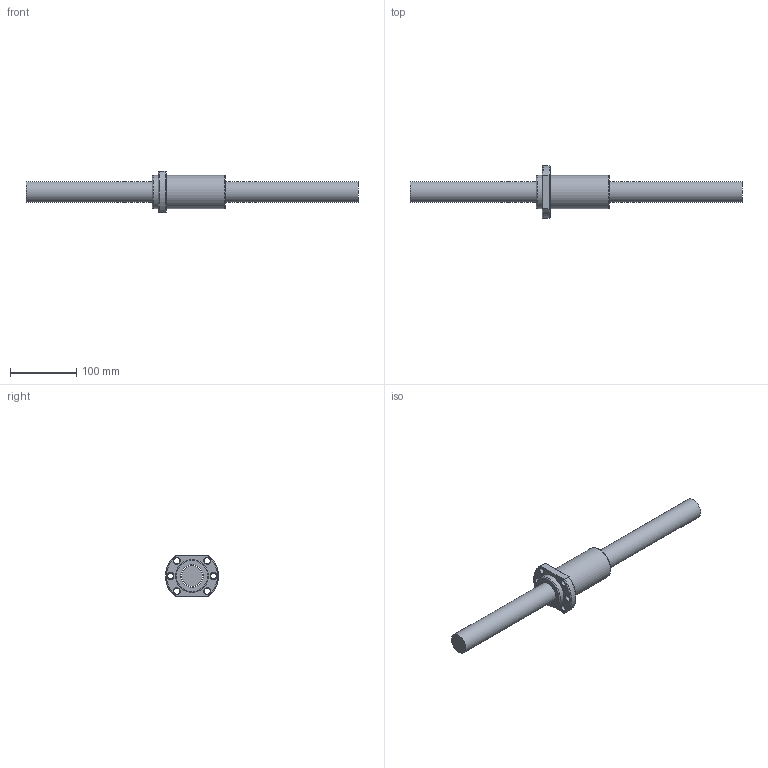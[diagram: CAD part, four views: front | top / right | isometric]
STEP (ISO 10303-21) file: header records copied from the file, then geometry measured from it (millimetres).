
FILE_DESCRIPTION (( 'STEP AP203' ), '1' );
FILE_NAME ('SFA3232-2.8.step', '2024-05-07T07:25:52', ( '' ), ( '' ), 'SwSTEP 2.0', 'SolidWorks 2022', '' );
FILE_SCHEMA (( 'CONFIG_CONTROL_DESIGN' ));
Length unit declared in the file: millimetre
Products named in the file (1): SFA3232-2.8
Bounding box: 500 x 79.74 x 62 mm (x, y, z)
Volume: 519076.7 mm3; surface area: 88175.9 mm2
Topology: 2 solids, 2 shells, 57 faces, 138 edges, 87 vertices
Faces by surface type: cylinder 20, plane 13, cone 13, torus 6, bspline 5
Full cylindrical faces by diameter (mm): 4 x1, 5 x6, 9 x6, 31 x1, 33.7 x1, 50 x2
Entity records: 3205 total; most frequent: CARTESIAN_POINT 2118, DIRECTION 198, ORIENTED_EDGE 172, EDGE_LOOP 96, AXIS2_PLACEMENT_3D 91, EDGE_CURVE 86, VERTEX_POINT 70, FACE_OUTER_BOUND 65
